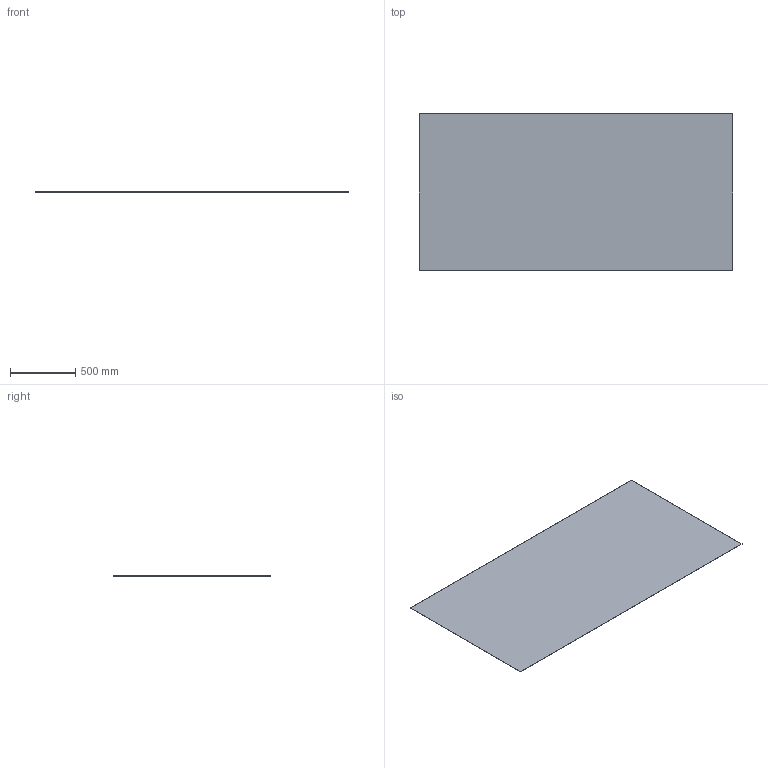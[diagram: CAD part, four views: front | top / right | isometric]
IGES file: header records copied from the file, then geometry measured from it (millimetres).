
Start section: SolidWorks IGES file using analytic representation for surfaces
Global section: file name: \\UTENTI\Dati Utenti\Tecnico\DC\2D - 3D per sito\3D superfici\DeCastelli-3D-Forma 120x240.igs; native system: SolidWorks 2022; preprocessor: SolidWorks 2022; author: Silviad; date: 240808.092938; units: millimetre
Bounding box: 2400 x 1200 x 2 mm (x, y, z)
Surface area: 5769600 mm2 (no closed solid volume)
Topology: 0 solids, 0 shells, 4 faces, 16 edges, 16 vertices
Faces by surface type: bspline 4
